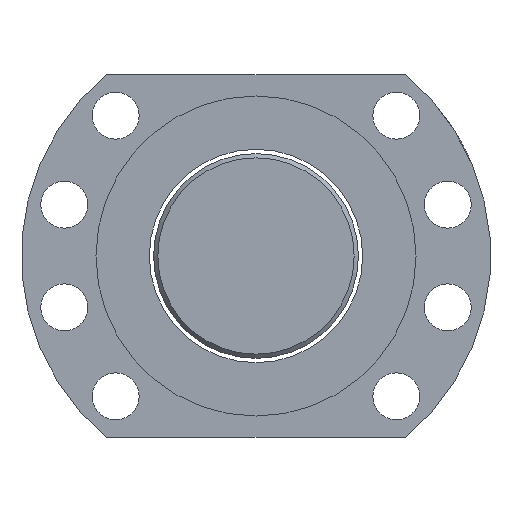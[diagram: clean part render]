
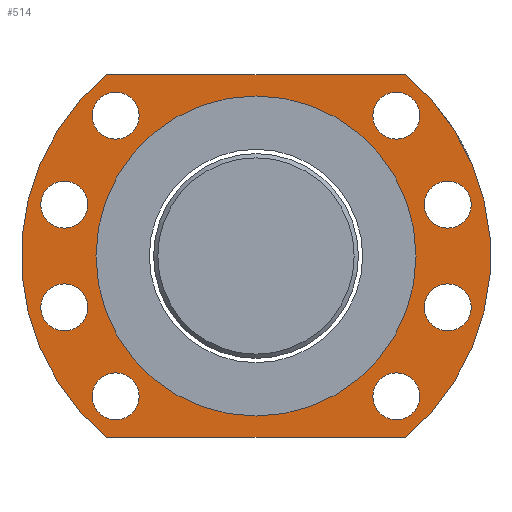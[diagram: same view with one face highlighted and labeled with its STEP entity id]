
A CAD part, left-side view. The second image highlights one B-rep face of the part: STEP entity #514.
In plain terms, the highlighted planar face has unit normal (-1, 0, 0).
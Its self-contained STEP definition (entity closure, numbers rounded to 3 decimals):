
#61=LINE('',#864,#69);
#64=LINE('',#870,#72);
#69=VECTOR('',#706,1000.);
#72=VECTOR('',#711,1000.);
#83=PLANE('',#605);
#161=ORIENTED_EDGE('',*,*,#229,.T.);
#162=ORIENTED_EDGE('',*,*,#231,.F.);
#163=ORIENTED_EDGE('',*,*,#235,.T.);
#164=ORIENTED_EDGE('',*,*,#253,.F.);
#165=ORIENTED_EDGE('',*,*,#250,.T.);
#166=ORIENTED_EDGE('',*,*,#247,.T.);
#167=ORIENTED_EDGE('',*,*,#217,.T.);
#168=ORIENTED_EDGE('',*,*,#244,.T.);
#169=ORIENTED_EDGE('',*,*,#243,.F.);
#170=ORIENTED_EDGE('',*,*,#241,.F.);
#171=ORIENTED_EDGE('',*,*,#239,.F.);
#172=ORIENTED_EDGE('',*,*,#237,.T.);
#173=ORIENTED_EDGE('',*,*,#233,.T.);
#217=EDGE_CURVE('',#271,#272,#316,.T.);
#229=EDGE_CURVE('',#283,#283,#322,.T.);
#231=EDGE_CURVE('',#285,#285,#324,.T.);
#233=EDGE_CURVE('',#287,#287,#326,.T.);
#235=EDGE_CURVE('',#289,#289,#328,.T.);
#237=EDGE_CURVE('',#291,#291,#330,.T.);
#239=EDGE_CURVE('',#293,#293,#332,.T.);
#241=EDGE_CURVE('',#295,#295,#334,.T.);
#243=EDGE_CURVE('',#297,#297,#336,.T.);
#244=EDGE_CURVE('',#272,#298,#61,.T.);
#247=EDGE_CURVE('',#300,#271,#64,.T.);
#250=EDGE_CURVE('',#298,#300,#337,.T.);
#253=EDGE_CURVE('',#303,#303,#340,.T.);
#271=VERTEX_POINT('',#782);
#272=VERTEX_POINT('',#783);
#283=VERTEX_POINT('',#827);
#285=VERTEX_POINT('',#832);
#287=VERTEX_POINT('',#837);
#289=VERTEX_POINT('',#842);
#291=VERTEX_POINT('',#847);
#293=VERTEX_POINT('',#852);
#295=VERTEX_POINT('',#857);
#297=VERTEX_POINT('',#862);
#298=VERTEX_POINT('',#865);
#300=VERTEX_POINT('',#871);
#303=VERTEX_POINT('',#882);
#316=CIRCLE('',#561,55.);
#322=CIRCLE('',#569,5.5);
#324=CIRCLE('',#572,5.5);
#326=CIRCLE('',#575,5.5);
#328=CIRCLE('',#578,5.5);
#330=CIRCLE('',#581,5.5);
#332=CIRCLE('',#584,5.5);
#334=CIRCLE('',#587,5.5);
#336=CIRCLE('',#590,5.5);
#337=CIRCLE('',#594,55.);
#340=CIRCLE('',#598,37.5);
#387=EDGE_LOOP('',(#161));
#388=EDGE_LOOP('',(#162));
#389=EDGE_LOOP('',(#163));
#390=EDGE_LOOP('',(#164));
#391=EDGE_LOOP('',(#165,#166,#167,#168));
#392=EDGE_LOOP('',(#169));
#393=EDGE_LOOP('',(#170));
#394=EDGE_LOOP('',(#171));
#395=EDGE_LOOP('',(#172));
#396=EDGE_LOOP('',(#173));
#458=FACE_BOUND('',#387,.T.);
#459=FACE_BOUND('',#388,.T.);
#460=FACE_BOUND('',#389,.T.);
#461=FACE_BOUND('',#390,.T.);
#462=FACE_BOUND('',#391,.T.);
#463=FACE_BOUND('',#392,.T.);
#464=FACE_BOUND('',#393,.T.);
#465=FACE_BOUND('',#394,.T.);
#466=FACE_BOUND('',#395,.T.);
#467=FACE_BOUND('',#396,.T.);
#514=ADVANCED_FACE('',(#458,#459,#460,#461,#462,#463,#464,#465,#466,#467),
#83,.T.);
#561=AXIS2_PLACEMENT_3D('',#781,#642,#643);
#569=AXIS2_PLACEMENT_3D('',#826,#660,#661);
#572=AXIS2_PLACEMENT_3D('',#831,#666,#667);
#575=AXIS2_PLACEMENT_3D('',#836,#672,#673);
#578=AXIS2_PLACEMENT_3D('',#841,#678,#679);
#581=AXIS2_PLACEMENT_3D('',#846,#684,#685);
#584=AXIS2_PLACEMENT_3D('',#851,#690,#691);
#587=AXIS2_PLACEMENT_3D('',#856,#696,#697);
#590=AXIS2_PLACEMENT_3D('',#861,#702,#703);
#594=AXIS2_PLACEMENT_3D('',#876,#716,#717);
#598=AXIS2_PLACEMENT_3D('',#881,#724,#725);
#605=AXIS2_PLACEMENT_3D('',#904,#738,#739);
#642=DIRECTION('',(-1.,0.,0.));
#643=DIRECTION('',(0.,0.,-1.));
#660=DIRECTION('',(1.,0.,0.));
#661=DIRECTION('',(0.,0.,1.));
#666=DIRECTION('',(-1.,0.,0.));
#667=DIRECTION('',(0.,0.,1.));
#672=DIRECTION('',(1.,0.,0.));
#673=DIRECTION('',(0.,0.,1.));
#678=DIRECTION('',(1.,0.,0.));
#679=DIRECTION('',(0.,0.,1.));
#684=DIRECTION('',(1.,0.,0.));
#685=DIRECTION('',(0.,0.,1.));
#690=DIRECTION('',(-1.,0.,0.));
#691=DIRECTION('',(0.,0.,1.));
#696=DIRECTION('',(-1.,0.,0.));
#697=DIRECTION('',(0.,0.,1.));
#702=DIRECTION('',(-1.,0.,0.));
#703=DIRECTION('',(0.,0.,1.));
#706=DIRECTION('',(0.,1.,0.));
#711=DIRECTION('',(0.,-1.,0.));
#716=DIRECTION('',(-1.,0.,0.));
#717=DIRECTION('',(0.,0.,-1.));
#724=DIRECTION('',(-1.,0.,0.));
#725=DIRECTION('',(0.,0.,-1.));
#738=DIRECTION('',(-1.,0.,0.));
#739=DIRECTION('',(0.,0.,-1.));
#781=CARTESIAN_POINT('',(-34.206,3.034,10.77));
#782=CARTESIAN_POINT('',(-34.206,-31.876,-31.73));
#783=CARTESIAN_POINT('',(-34.206,-31.876,53.27));
#826=CARTESIAN_POINT('',(-34.206,-29.846,43.65));
#827=CARTESIAN_POINT('',(-34.206,-29.846,49.15));
#831=CARTESIAN_POINT('',(-34.206,35.915,43.65));
#832=CARTESIAN_POINT('',(-34.206,35.915,49.15));
#836=CARTESIAN_POINT('',(-34.206,-41.881,22.805));
#837=CARTESIAN_POINT('',(-34.206,-41.881,28.305));
#841=CARTESIAN_POINT('',(-34.206,-41.881,-1.265));
#842=CARTESIAN_POINT('',(-34.206,-41.881,4.235));
#846=CARTESIAN_POINT('',(-34.206,-29.846,-22.111));
#847=CARTESIAN_POINT('',(-34.206,-29.846,-16.611));
#851=CARTESIAN_POINT('',(-34.206,35.915,-22.111));
#852=CARTESIAN_POINT('',(-34.206,35.915,-16.611));
#856=CARTESIAN_POINT('',(-34.206,47.95,22.805));
#857=CARTESIAN_POINT('',(-34.206,47.95,28.305));
#861=CARTESIAN_POINT('',(-34.206,47.95,-1.265));
#862=CARTESIAN_POINT('',(-34.206,47.95,4.235));
#864=CARTESIAN_POINT('',(-34.206,-31.876,53.27));
#865=CARTESIAN_POINT('',(-34.206,37.945,53.27));
#870=CARTESIAN_POINT('',(-34.206,37.945,-31.73));
#871=CARTESIAN_POINT('',(-34.206,37.945,-31.73));
#876=CARTESIAN_POINT('',(-34.206,3.034,10.77));
#881=CARTESIAN_POINT('',(-34.206,3.034,10.77));
#882=CARTESIAN_POINT('',(-34.206,3.034,-26.73));
#904=CARTESIAN_POINT('',(-34.206,3.034,10.77));
